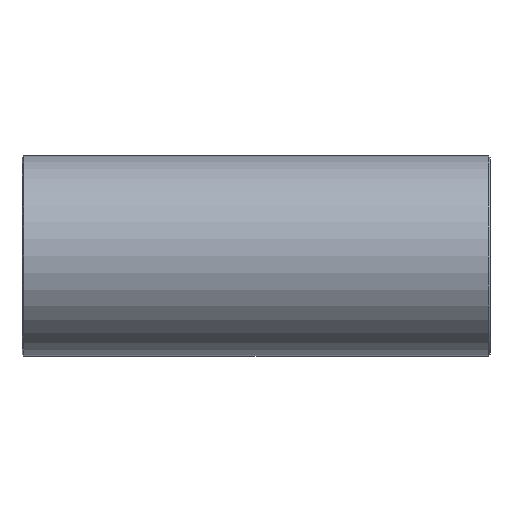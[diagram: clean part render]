
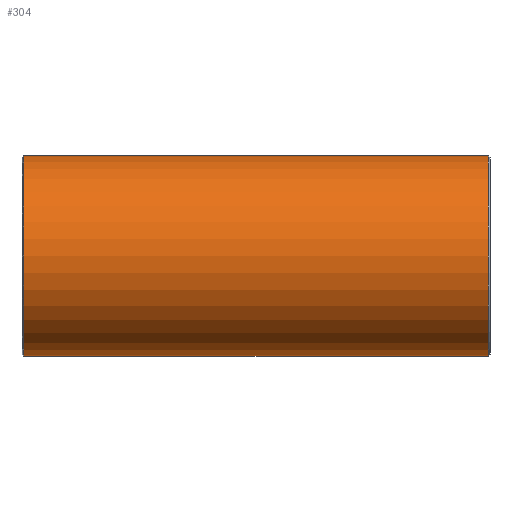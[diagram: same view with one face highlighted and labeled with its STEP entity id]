
A CAD part, front view. The second image highlights one B-rep face of the part: STEP entity #304.
In plain terms, the highlighted cylindrical face has radius 12.7 mm (diameter 25.4 mm), a full revolution.
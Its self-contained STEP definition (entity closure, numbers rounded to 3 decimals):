
#121=CARTESIAN_POINT('',(0.0,0.0,12.7));
#122=VERTEX_POINT('',#121);
#123=CARTESIAN_POINT('',(0.0,0.0,-12.7));
#124=VERTEX_POINT('',#123);
#221=CARTESIAN_POINT('',(-29.5,12.7,0.));
#222=VERTEX_POINT('',#221);
#223=CARTESIAN_POINT('',(-29.5,0.0,0.0));
#224=DIRECTION('',(-1.0,0.0,0.0));
#225=DIRECTION('',(0.0,-1.0,0.0));
#226=AXIS2_PLACEMENT_3D('',#223,#224,#225);
#227=CIRCLE('',#226,12.7);
#228=EDGE_CURVE('',#222,#222,#227,.T.);
#233=CARTESIAN_POINT('',(0.,0.0,0.0));
#234=DIRECTION('',(1.0,0.0,0.0));
#235=DIRECTION('',(0.0,1.0,0.0));
#236=AXIS2_PLACEMENT_3D('',#233,#234,#235);
#237=CYLINDRICAL_SURFACE('',#236,12.7);
#238=CARTESIAN_POINT('',(29.5,12.7,0.));
#239=VERTEX_POINT('',#238);
#240=CARTESIAN_POINT('',(29.5,0.0,0.0));
#241=DIRECTION('',(1.0,0.0,0.0));
#242=DIRECTION('',(0.0,-1.0,0.0));
#243=AXIS2_PLACEMENT_3D('',#240,#241,#242);
#244=CIRCLE('',#243,12.7);
#245=EDGE_CURVE('',#239,#239,#244,.T.);
#246=ORIENTED_EDGE('',*,*,#245,.F.);
#247=EDGE_LOOP('',(#246));
#248=FACE_OUTER_BOUND('',#247,.T.);
#249=CARTESIAN_POINT('',(14.02,10.991,6.363));
#250=VERTEX_POINT('',#249);
#251=CARTESIAN_POINT('',(0.0,0.0,0.0));
#252=DIRECTION('',(-0.617,0.787,0.0));
#253=DIRECTION('',(0.787,0.617,0.0));
#254=AXIS2_PLACEMENT_3D('',#251,#252,#253);
#255=ELLIPSE('',#254,20.585,12.7);
#256=EDGE_CURVE('',#122,#250,#255,.T.);
#257=ORIENTED_EDGE('',*,*,#256,.F.);
#258=CARTESIAN_POINT('',(-14.02,10.991,6.363));
#259=VERTEX_POINT('',#258);
#260=CARTESIAN_POINT('',(0.0,0.0,0.0));
#261=DIRECTION('',(0.617,0.787,0.0));
#262=DIRECTION('',(-0.787,0.617,0.0));
#263=AXIS2_PLACEMENT_3D('',#260,#261,#262);
#264=ELLIPSE('',#263,20.585,12.7);
#265=EDGE_CURVE('',#259,#122,#264,.T.);
#266=ORIENTED_EDGE('',*,*,#265,.F.);
#267=CARTESIAN_POINT('',(-14.02,10.991,-6.363));
#268=VERTEX_POINT('',#267);
#269=CARTESIAN_POINT('',(0.0,0.0,0.0));
#270=DIRECTION('',(0.617,0.787,0.0));
#271=DIRECTION('',(-0.787,0.617,0.0));
#272=AXIS2_PLACEMENT_3D('',#269,#270,#271);
#273=ELLIPSE('',#272,20.585,12.7);
#274=EDGE_CURVE('',#268,#259,#273,.T.);
#275=ORIENTED_EDGE('',*,*,#274,.F.);
#276=CARTESIAN_POINT('',(0.0,0.0,0.0));
#277=DIRECTION('',(0.617,0.787,0.0));
#278=DIRECTION('',(-0.787,0.617,0.0));
#279=AXIS2_PLACEMENT_3D('',#276,#277,#278);
#280=ELLIPSE('',#279,20.585,12.7);
#281=EDGE_CURVE('',#124,#268,#280,.T.);
#282=ORIENTED_EDGE('',*,*,#281,.F.);
#283=CARTESIAN_POINT('',(14.02,10.991,-6.363));
#284=VERTEX_POINT('',#283);
#285=CARTESIAN_POINT('',(0.0,0.0,0.0));
#286=DIRECTION('',(-0.617,0.787,0.0));
#287=DIRECTION('',(0.787,0.617,0.0));
#288=AXIS2_PLACEMENT_3D('',#285,#286,#287);
#289=ELLIPSE('',#288,20.585,12.7);
#290=EDGE_CURVE('',#284,#124,#289,.T.);
#291=ORIENTED_EDGE('',*,*,#290,.F.);
#292=CARTESIAN_POINT('',(0.0,0.0,0.0));
#293=DIRECTION('',(-0.617,0.787,0.0));
#294=DIRECTION('',(0.787,0.617,0.0));
#295=AXIS2_PLACEMENT_3D('',#292,#293,#294);
#296=ELLIPSE('',#295,20.585,12.7);
#297=EDGE_CURVE('',#250,#284,#296,.T.);
#298=ORIENTED_EDGE('',*,*,#297,.F.);
#299=EDGE_LOOP('',(#257,#266,#275,#282,#291,#298));
#300=FACE_BOUND('',#299,.T.);
#301=ORIENTED_EDGE('',*,*,#228,.F.);
#302=EDGE_LOOP('',(#301));
#303=FACE_BOUND('',#302,.T.);
#304=ADVANCED_FACE('',(#248,#300,#303),#237,.T.);
